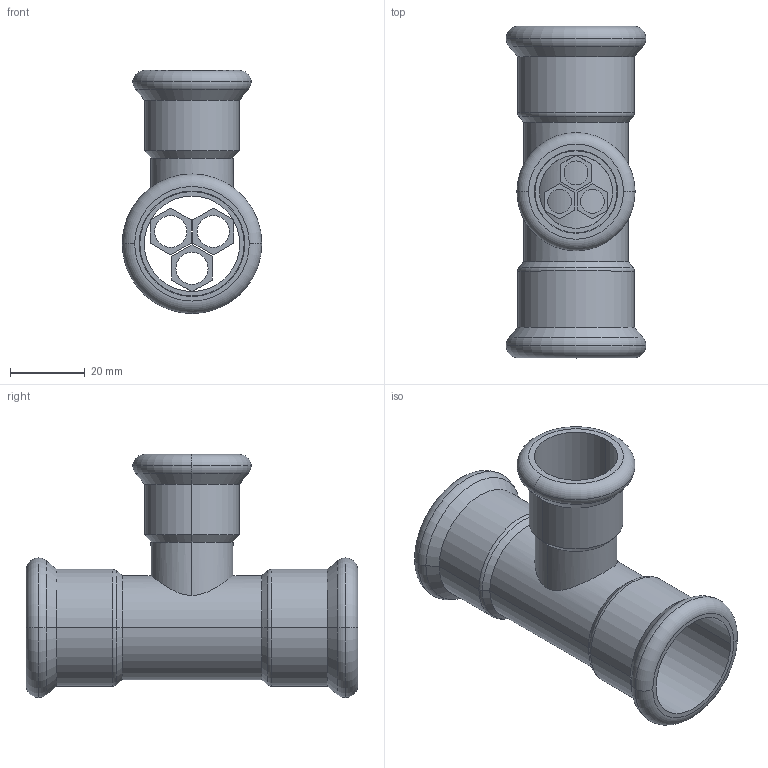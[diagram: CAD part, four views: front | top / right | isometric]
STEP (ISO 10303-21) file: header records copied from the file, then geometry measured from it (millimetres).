
FILE_DESCRIPTION(('OneSpaceDesigner STEP Export'),'2;1');
FILE_NAME('R2715 28x22x28.stp','2010-06-10T 9:00:46',(''),(''),'OneSpace Designer STEP processor for AP214 (Solid Model)','OneSpace Modeling 15.00A 14-Mar-2007 (C) CoCreate Software GmbH','');
FILE_SCHEMA(('AUTOMOTIVE_DESIGN { 1 0 10303 214 1 1 1 1 }'));
Length unit declared in the file: millimetre
Products named in the file (2): R2715_28x22x28
Assembly tree (1 placements, depth 2):
  R2715_28x22x28
    R2715_28x22x28
Bounding box: 37.45 x 89 x 65.22 mm (x, y, z)
Volume: 20879.5 mm3; surface area: 24870.3 mm2
Topology: 1 solids, 1 shells, 172 faces, 425 edges, 272 vertices
Faces by surface type: plane 90, cylinder 54, torus 16, cone 12
Entity records: 5749 total; most frequent: CARTESIAN_POINT 1900, ORIENTED_EDGE 850, DIRECTION 699, EDGE_CURVE 425, VERTEX_POINT 272, VECTOR 263, LINE 263, AXIS2_PLACEMENT_3D 218
